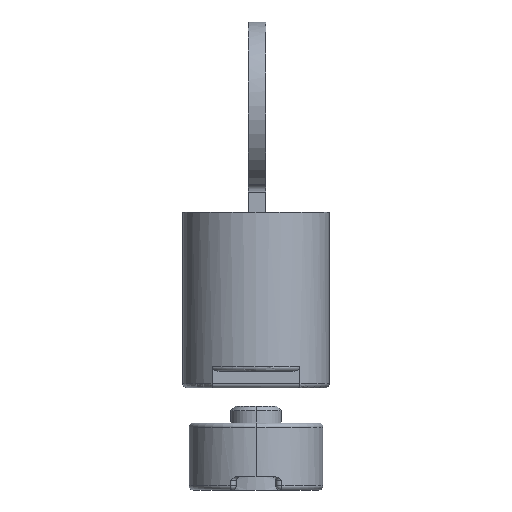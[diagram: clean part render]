
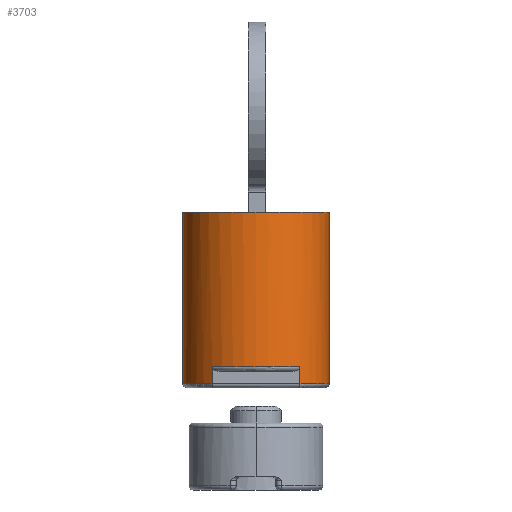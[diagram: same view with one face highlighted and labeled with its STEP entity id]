
A CAD part, front view. The second image highlights one B-rep face of the part: STEP entity #3703.
In plain terms, the highlighted cylindrical face has radius 8.75 mm (diameter 17.5 mm), a partial arc.
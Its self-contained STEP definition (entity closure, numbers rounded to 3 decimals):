
#3098=CARTESIAN_POINT('',(8.75,8.75,12.7));
#3099=DIRECTION('',(0.,0.,1.));
#3100=DIRECTION('',(0.6,-0.8,0.));
#3101=AXIS2_PLACEMENT_3D('',#3098,#3099,#3100);
#3113=DIRECTION('',(0.,0.,1.));
#3114=VECTOR('',#3113,2.);
#3115=CARTESIAN_POINT('',(14.,1.75,12.7));
#3116=LINE('',#3115,#3114);
#3117=DIRECTION('',(0.,0.,-1.));
#3118=VECTOR('',#3117,2.);
#3119=CARTESIAN_POINT('',(3.5,1.75,14.7));
#3120=LINE('',#3119,#3118);
#3121=DIRECTION('',(0.,0.,-1.));
#3122=VECTOR('',#3121,20.5);
#3123=CARTESIAN_POINT('',(17.5,8.75,33.2));
#3124=LINE('',#3123,#3122);
#3155=CARTESIAN_POINT('',(8.75,8.75,14.7));
#3156=DIRECTION('',(0.,0.,1.));
#3157=DIRECTION('',(-0.6,-0.8,0.));
#3158=AXIS2_PLACEMENT_3D('',#3155,#3156,#3157);
#3160=CARTESIAN_POINT('',(8.75,8.75,14.7));
#3161=DIRECTION('',(0.,0.,1.));
#3162=DIRECTION('',(0.001,-1.,0.));
#3163=AXIS2_PLACEMENT_3D('',#3160,#3161,#3162);
#3214=CARTESIAN_POINT('',(8.75,8.75,12.7));
#3215=DIRECTION('',(0.,0.,1.));
#3216=DIRECTION('',(-1.,0.,0.));
#3217=AXIS2_PLACEMENT_3D('',#3214,#3215,#3216);
#3219=CARTESIAN_POINT('',(8.75,8.75,12.7));
#3220=DIRECTION('',(0.,0.,1.));
#3221=DIRECTION('',(-1.,-0.007,0.));
#3222=AXIS2_PLACEMENT_3D('',#3219,#3220,#3221);
#3224=DIRECTION('',(0.,0.,-1.));
#3225=VECTOR('',#3224,20.5);
#3226=CARTESIAN_POINT('',(0.,8.75,33.2));
#3227=LINE('',#3226,#3225);
#3241=CARTESIAN_POINT('',(8.75,8.75,33.2));
#3242=DIRECTION('',(0.,0.,-1.));
#3243=DIRECTION('',(1.,0.,0.));
#3244=AXIS2_PLACEMENT_3D('',#3241,#3242,#3243);
#3472=CARTESIAN_POINT('',(0.,8.75,33.2));
#3473=CARTESIAN_POINT('',(17.5,8.75,33.2));
#3474=VERTEX_POINT('',#3472);
#3475=VERTEX_POINT('',#3473);
#3476=CARTESIAN_POINT('',(17.5,8.75,12.7));
#3478=VERTEX_POINT('',#3476);
#3482=CARTESIAN_POINT('',(0.,8.75,12.7));
#3483=VERTEX_POINT('',#3482);
#3492=CARTESIAN_POINT('',(14.,1.75,12.7));
#3493=VERTEX_POINT('',#3492);
#3499=CARTESIAN_POINT('',(14.,1.75,14.7));
#3500=VERTEX_POINT('',#3499);
#3501=CARTESIAN_POINT('',(3.5,1.75,14.7));
#3502=CARTESIAN_POINT('',(8.758,0.,14.7));
#3503=VERTEX_POINT('',#3501);
#3504=VERTEX_POINT('',#3502);
#3505=CARTESIAN_POINT('',(3.5,1.75,12.7));
#3506=VERTEX_POINT('',#3505);
#3507=CARTESIAN_POINT('',(0.,8.688,12.7));
#3508=VERTEX_POINT('',#3507);
#3677=CARTESIAN_POINT('',(8.75,8.75,0.));
#3678=DIRECTION('',(0.,0.,1.));
#3679=DIRECTION('',(1.,0.,0.));
#3680=AXIS2_PLACEMENT_3D('',#3677,#3678,#3679);
#3681=CYLINDRICAL_SURFACE('',#3680,8.75);
#3682=ORIENTED_EDGE('',*,*,#3662,.F.);
#3684=ORIENTED_EDGE('',*,*,#3683,.T.);
#3686=ORIENTED_EDGE('',*,*,#3685,.F.);
#3688=ORIENTED_EDGE('',*,*,#3687,.F.);
#3690=ORIENTED_EDGE('',*,*,#3689,.T.);
#3692=ORIENTED_EDGE('',*,*,#3691,.F.);
#3694=ORIENTED_EDGE('',*,*,#3693,.F.);
#3696=ORIENTED_EDGE('',*,*,#3695,.F.);
#3698=ORIENTED_EDGE('',*,*,#3697,.F.);
#3700=ORIENTED_EDGE('',*,*,#3699,.T.);
#3701=EDGE_LOOP('',(#3682,#3684,#3686,#3688,#3690,#3692,#3694,#3696,#3698,
#3700));
#3702=FACE_OUTER_BOUND('',#3701,.F.);
#3703=ADVANCED_FACE('',(#3702),#3681,.T.);
#3102=CIRCLE('',#3101,8.75);
#3159=CIRCLE('',#3158,8.75);
#3164=CIRCLE('',#3163,8.75);
#3218=CIRCLE('',#3217,8.75);
#3223=CIRCLE('',#3222,8.75);
#3245=CIRCLE('',#3244,8.75);
#3662=EDGE_CURVE('',#3493,#3478,#3102,.T.);
#3683=EDGE_CURVE('',#3493,#3500,#3116,.T.);
#3685=EDGE_CURVE('',#3504,#3500,#3164,.T.);
#3687=EDGE_CURVE('',#3503,#3504,#3159,.T.);
#3689=EDGE_CURVE('',#3503,#3506,#3120,.T.);
#3691=EDGE_CURVE('',#3508,#3506,#3223,.T.);
#3693=EDGE_CURVE('',#3483,#3508,#3218,.T.);
#3695=EDGE_CURVE('',#3474,#3483,#3227,.T.);
#3697=EDGE_CURVE('',#3475,#3474,#3245,.T.);
#3699=EDGE_CURVE('',#3475,#3478,#3124,.T.);
